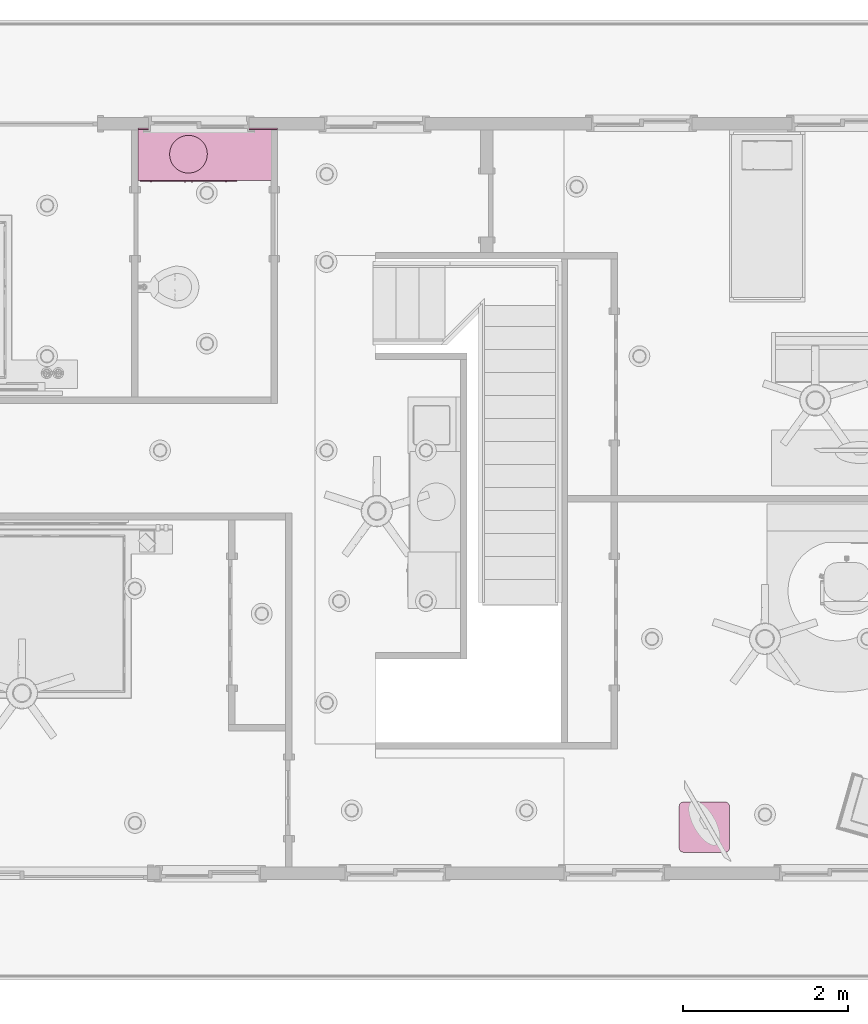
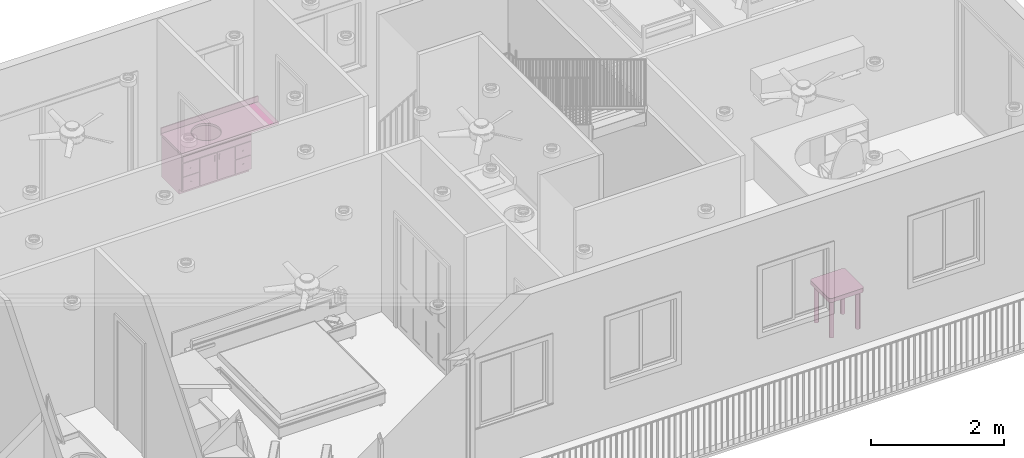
# One storey, part 24 of 28: 3 furnishings, 1 opening.
"""IFC2X3 building model written with IfcOpenShell, lengths in feet."""

from ifc_helpers import new_model, entity, si_unit, converted_unit, derived_unit, direction, frame, frame_2d, origin, place, context, subcontext, project, spatial, polyline, circle_curve, parameter, trimmed, segment, composite_curve, circle, outline, extrude, faceted_brep, source, transform, mapped, material, material_list, type_object, type_shapes, element, save


model = new_model("IFC2X3")

# Units and contexts
model_context = context("Model", 3, precision=0.0001, world=origin(), true_north=direction((6.12303176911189e-17, 1.0)))
body_context = subcontext(model_context, "Body", "Model", "MODEL_VIEW")
ifc_project = project(units=[converted_unit("LENGTHUNIT", "FOOT", entity("IfcRatioMeasure", 0.3048), si_unit("LENGTHUNIT", "METRE"), dimensions=[1, 0, 0, 0, 0, 0, 0]), converted_unit("AREAUNIT", "SQUARE FOOT", entity("IfcRatioMeasure", 0.09290304), si_unit("AREAUNIT", "SQUARE_METRE"), dimensions=[2, 0, 0, 0, 0, 0, 0]), converted_unit("VOLUMEUNIT", "CUBIC FOOT", entity("IfcRatioMeasure", 0.028316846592), si_unit("VOLUMEUNIT", "CUBIC_METRE"), dimensions=[3, 0, 0, 0, 0, 0, 0]), converted_unit("PLANEANGLEUNIT", "DEGREE", entity("IfcRatioMeasure", 0.0174532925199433), si_unit("PLANEANGLEUNIT", "RADIAN"), dimensions=[0, 0, 0, 0, 0, 0, 0]), si_unit("MASSUNIT", "GRAM", prefix="KILO"), derived_unit("MASSDENSITYUNIT", [(si_unit("MASSUNIT", "GRAM", prefix="KILO"), 1), (si_unit("LENGTHUNIT", "METRE"), -3)]), si_unit("TIMEUNIT", "SECOND"), si_unit("FREQUENCYUNIT", "HERTZ"), si_unit("THERMODYNAMICTEMPERATUREUNIT", "DEGREE_CELSIUS"), derived_unit("THERMALTRANSMITTANCEUNIT", [(si_unit("MASSUNIT", "GRAM", prefix="KILO"), 1), (si_unit("THERMODYNAMICTEMPERATUREUNIT", "KELVIN"), -1), (si_unit("TIMEUNIT", "SECOND"), -3)]), derived_unit("VOLUMETRICFLOWRATEUNIT", [(si_unit("LENGTHUNIT", "METRE"), 3), (si_unit("TIMEUNIT", "SECOND"), -1)]), si_unit("ELECTRICCURRENTUNIT", "AMPERE"), si_unit("ELECTRICVOLTAGEUNIT", "VOLT"), si_unit("POWERUNIT", "WATT"), si_unit("FORCEUNIT", "NEWTON"), si_unit("ILLUMINANCEUNIT", "LUX"), si_unit("LUMINOUSFLUXUNIT", "LUMEN"), si_unit("LUMINOUSINTENSITYUNIT", "CANDELA"), derived_unit("USERDEFINED", [(si_unit("MASSUNIT", "GRAM", prefix="KILO"), -1), (si_unit("LENGTHUNIT", "METRE"), -2), (si_unit("TIMEUNIT", "SECOND"), 3), (si_unit("LUMINOUSFLUXUNIT", "LUMEN"), 1)]), derived_unit("LINEARVELOCITYUNIT", [(si_unit("LENGTHUNIT", "METRE"), 1), (si_unit("TIMEUNIT", "SECOND"), -1)]), si_unit("PRESSUREUNIT", "PASCAL"), derived_unit("USERDEFINED", [(si_unit("LENGTHUNIT", "METRE"), -2), (si_unit("MASSUNIT", "GRAM", prefix="KILO"), 1), (si_unit("TIMEUNIT", "SECOND"), -2)])], contexts=[model_context])

# Site, building, storey
site_placement = place(None, origin())
site = spatial("IfcSite", under=ifc_project, at=site_placement, Name="表面", CompositionType="ELEMENT")
building_placement = place(site_placement, origin())
building = spatial("IfcBuilding", under=site, at=building_placement, CompositionType="ELEMENT")
storey_placement = place(building_placement, frame((0.0, 0.0, 10.0)))
storey = spatial("IfcBuildingStorey", under=building, at=storey_placement, Name="Level 2", CompositionType="ELEMENT", Elevation=9.99999999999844)

# Furnishing
ifc_material_1 = material(Name="Cabinets - Handles")
ifc_material_2 = material(Name="Cabinets")
ifc_material_list_1 = material_list([ifc_material_1, ifc_material_2])
ifc_material_list_2 = material_list([ifc_material_1, ifc_material_2])
furniture_type_1 = type_object("IfcFurnitureType", Name="48\"", material=ifc_material_list_2)
shared_shape_1 = source(origin(), body_context, "Body", "Brep", [
    faceted_brep([(0.454297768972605, -2.08333333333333, 1.87500000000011), (0.412631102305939, -2.08333333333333, 1.87500000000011), (0.412631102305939, -2.08333333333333, 1.5416666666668), (0.454297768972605, -2.08333333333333, 1.5416666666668), (0.454297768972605, -2.04166666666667, 1.87500000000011), (0.412631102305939, -2.04166666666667, 1.87500000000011), (0.412631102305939, -2.04166666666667, 1.5416666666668), (0.454297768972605, -2.04166666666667, 1.5416666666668)], [[[0, 1, 2, 3]], [[1, 0, 4, 5]], [[2, 1, 5, 6]], [[3, 2, 6, 7]], [[0, 3, 7, 4]], [[4, 7, 6, 5]]]),
    faceted_brep([(0.183464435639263, -2.04166666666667, 1.87500000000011), (0.183464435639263, -2.04166666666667, 1.54166666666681), (0.141797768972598, -2.04166666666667, 1.54166666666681), (0.141797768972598, -2.04166666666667, 1.87500000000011), (0.141797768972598, -2.08333333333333, 1.87500000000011), (0.183464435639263, -2.08333333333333, 1.87500000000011), (0.141797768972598, -2.08333333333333, 1.54166666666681), (0.183464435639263, -2.08333333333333, 1.54166666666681)], [[[0, 1, 2, 3]], [[4, 5, 0, 3]], [[6, 4, 3, 2]], [[7, 6, 2, 1]], [[5, 7, 1, 0]], [[5, 4, 6, 7]]]),
    faceted_brep([(-1.20341143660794, -2.04166666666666, 0.806246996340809), (-1.19413973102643, -2.04166666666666, 0.806246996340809), (-1.18486802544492, -2.04166666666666, 0.806246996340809), (-1.17651450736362, -2.04166666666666, 0.802224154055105), (-1.16816098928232, -2.04166666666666, 0.798201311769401), (-1.16238017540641, -2.04166666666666, 0.7909524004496), (-1.1565993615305, -2.04166666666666, 0.783703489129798), (-1.15453621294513, -2.04166666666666, 0.774664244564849), (-1.15247306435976, -2.04166666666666, 0.7656249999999), (-1.15443837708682, -2.04166666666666, 0.757014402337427), (-1.1565993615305, -2.04166666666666, 0.747546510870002), (-1.16238017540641, -2.04166666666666, 0.7402975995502), (-1.16816098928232, -2.04166666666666, 0.733048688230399), (-1.17651450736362, -2.04166666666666, 0.729025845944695), (-1.18486802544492, -2.04166666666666, 0.725003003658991), (-1.19413973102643, -2.04166666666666, 0.725003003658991), (-1.20341143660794, -2.04166666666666, 0.725003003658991), (-1.21176495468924, -2.04166666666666, 0.729025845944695), (-1.22011847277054, -2.04166666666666, 0.733048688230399), (-1.22589928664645, -2.04166666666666, 0.7402975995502), (-1.23168010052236, -2.04166666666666, 0.747546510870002), (-1.23374324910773, -2.04166666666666, 0.756585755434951), (-1.2358063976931, -2.04166666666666, 0.7656249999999), (-1.23384108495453, -2.04166666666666, 0.774235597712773), (-1.23168010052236, -2.04166666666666, 0.783703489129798), (-1.22589928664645, -2.04166666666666, 0.7909524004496), (-1.22011847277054, -2.04166666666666, 0.798201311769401), (-1.21176495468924, -2.04166666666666, 0.802224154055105), (-1.1565993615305, -2.06249999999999, 0.747546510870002), (-1.15453621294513, -2.06249999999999, 0.756585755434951), (-1.15247306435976, -2.06249999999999, 0.7656249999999), (-1.15443837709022, -2.06249999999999, 0.774235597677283), (-1.1565993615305, -2.06249999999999, 0.783703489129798), (-1.16238017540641, -2.06249999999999, 0.7909524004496), (-1.16816098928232, -2.06249999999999, 0.798201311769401), (-1.17651450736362, -2.06249999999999, 0.802224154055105), (-1.18486802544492, -2.06249999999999, 0.806246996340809), (-1.19413973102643, -2.06249999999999, 0.806246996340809), (-1.20341143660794, -2.06249999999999, 0.806246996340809), (-1.21176495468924, -2.06249999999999, 0.802224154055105), (-1.22011847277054, -2.06249999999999, 0.798201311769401), (-1.22589928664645, -2.06249999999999, 0.7909524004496), (-1.23168010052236, -2.06249999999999, 0.783703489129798), (-1.23374324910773, -2.06249999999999, 0.774664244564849), (-1.2358063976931, -2.06249999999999, 0.7656249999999), (-1.23384108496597, -2.06249999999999, 0.757014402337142), (-1.23168010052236, -2.06249999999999, 0.747546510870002), (-1.22589928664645, -2.06249999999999, 0.7402975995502), (-1.22011847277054, -2.06249999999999, 0.733048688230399), (-1.21176495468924, -2.06249999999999, 0.729025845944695), (-1.20341143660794, -2.06249999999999, 0.725003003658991), (-1.19413973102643, -2.06249999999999, 0.725003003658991), (-1.18486802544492, -2.06249999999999, 0.725003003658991), (-1.17651450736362, -2.06249999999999, 0.729025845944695), (-1.16816098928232, -2.06249999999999, 0.733048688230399), (-1.16238017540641, -2.06249999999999, 0.7402975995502)], [[[0, 1, 2, 3, 4, 5, 6, 7, 8, 9, 10, 11, 12, 13, 14, 15, 16, 17, 18, 19, 20, 21, 22, 23, 24, 25, 26, 27]], [[28, 29, 30, 31, 32, 33, 34, 35, 36, 37, 38, 39, 40, 41, 42, 43, 44, 45, 46, 47, 48, 49, 50, 51, 52, 53, 54, 55]], [[46, 45, 44, 22, 21, 20]], [[47, 46, 20, 19, 18, 48]], [[18, 17, 16, 50, 49, 48]], [[15, 14, 52, 51, 50, 16]], [[53, 52, 14, 13, 12, 54]], [[10, 9, 8, 30, 29, 28]], [[12, 11, 10, 28, 55, 54]], [[32, 31, 30, 8, 7, 6]], [[33, 32, 6, 5, 4, 34]], [[4, 3, 2, 36, 35, 34]], [[1, 0, 38, 37, 36, 2]], [[39, 38, 0, 27, 26, 40]], [[24, 23, 22, 44, 43, 42]], [[26, 25, 24, 42, 41, 40]]]),
    faceted_brep([(-1.1565993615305, -2.06249999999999, 1.60662015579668), (-1.16816098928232, -2.06249999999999, 1.62111797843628), (-1.18486802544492, -2.06249999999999, 1.62916366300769), (-1.20341143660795, -2.06249999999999, 1.62916366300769), (-1.22011847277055, -2.06249999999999, 1.62111797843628), (-1.23168010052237, -2.06249999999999, 1.60662015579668), (-1.2358063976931, -2.06249999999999, 1.58854166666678), (-1.23168010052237, -2.06249999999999, 1.57046317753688), (-1.22011847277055, -2.06249999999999, 1.55596535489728), (-1.20341143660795, -2.06249999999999, 1.54791967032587), (-1.18486802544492, -2.06249999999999, 1.54791967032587), (-1.16816098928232, -2.06249999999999, 1.55596535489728), (-1.1565993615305, -2.06249999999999, 1.57046317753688), (-1.15247306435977, -2.06249999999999, 1.58854166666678), (-1.18486802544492, -2.04166666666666, 1.62916366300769), (-1.16816098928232, -2.04166666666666, 1.62111797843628), (-1.1565993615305, -2.04166666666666, 1.60662015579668), (-1.15247306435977, -2.04166666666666, 1.58854166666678), (-1.1565993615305, -2.04166666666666, 1.57046317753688), (-1.16816098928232, -2.04166666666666, 1.55596535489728), (-1.18486802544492, -2.04166666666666, 1.54791967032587), (-1.20341143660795, -2.04166666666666, 1.54791967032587), (-1.22011847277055, -2.04166666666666, 1.55596535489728), (-1.23168010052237, -2.04166666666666, 1.57046317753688), (-1.2358063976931, -2.04166666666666, 1.58854166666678), (-1.23168010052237, -2.04166666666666, 1.60662015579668), (-1.22011847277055, -2.04166666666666, 1.62111797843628), (-1.20341143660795, -2.04166666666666, 1.62916366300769)], [[[0, 1, 2, 3, 4, 5, 6, 7, 8, 9, 10, 11, 12, 13]], [[14, 15, 16, 17, 18, 19, 20, 21, 22, 23, 24, 25, 26, 27]], [[7, 6, 24, 23]], [[8, 7, 23, 22]], [[9, 8, 22, 21]], [[21, 20, 10, 9]], [[11, 10, 20, 19]], [[19, 18, 12, 11]], [[17, 13, 12, 18]], [[0, 13, 17, 16]], [[16, 15, 1, 0]], [[14, 2, 1, 15]], [[14, 27, 3, 2]], [[4, 3, 27, 26]], [[26, 25, 5, 4]], [[24, 6, 5, 25]]]),
    faceted_brep([(1.79950697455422, -2.04166666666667, 0.806246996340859), (1.81621401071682, -2.04166666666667, 0.798201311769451), (1.82777563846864, -2.04166666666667, 0.783703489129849), (1.83190193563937, -2.04166666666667, 0.765624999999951), (1.82777563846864, -2.04166666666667, 0.747546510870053), (1.81621401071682, -2.04166666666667, 0.73304868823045), (1.79950697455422, -2.04166666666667, 0.725003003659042), (1.78096356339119, -2.04166666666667, 0.725003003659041), (1.76425652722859, -2.04166666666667, 0.733048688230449), (1.75269489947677, -2.04166666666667, 0.747546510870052), (1.74856860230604, -2.04166666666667, 0.765624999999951), (1.75269489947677, -2.04166666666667, 0.783703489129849), (1.76425652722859, -2.04166666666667, 0.798201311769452), (1.78096356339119, -2.04166666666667, 0.80624699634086), (1.79950697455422, -2.0625, 0.725003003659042), (1.81621401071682, -2.0625, 0.73304868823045), (1.82777563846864, -2.0625, 0.747546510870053), (1.83190193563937, -2.0625, 0.76562499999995), (1.82777563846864, -2.0625, 0.783703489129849), (1.81621401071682, -2.0625, 0.798201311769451), (1.79950697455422, -2.0625, 0.806246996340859), (1.78096356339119, -2.0625, 0.80624699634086), (1.76425652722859, -2.0625, 0.798201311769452), (1.75269489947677, -2.0625, 0.783703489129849), (1.74856860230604, -2.0625, 0.76562499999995), (1.75269489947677, -2.0625, 0.747546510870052), (1.76425652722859, -2.0625, 0.733048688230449), (1.78096356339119, -2.0625, 0.725003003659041)], [[[0, 1, 2, 3, 4, 5, 6, 7, 8, 9, 10, 11, 12, 13]], [[14, 15, 16, 17, 18, 19, 20, 21, 22, 23, 24, 25, 26, 27]], [[25, 24, 10, 9]], [[26, 25, 9, 8]], [[27, 26, 8, 7]], [[7, 6, 14, 27]], [[15, 14, 6, 5]], [[5, 4, 16, 15]], [[3, 17, 16, 4]], [[18, 17, 3, 2]], [[2, 1, 19, 18]], [[0, 20, 19, 1]], [[0, 13, 21, 20]], [[22, 21, 13, 12]], [[12, 11, 23, 22]], [[10, 24, 23, 11]]]),
    faceted_brep([(1.79950697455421, -2.0625, 1.54791967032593), (1.81621401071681, -2.0625, 1.55596535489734), (1.82777563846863, -2.0625, 1.57046317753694), (1.83190193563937, -2.0625, 1.58854166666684), (1.82777563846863, -2.0625, 1.60662015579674), (1.81621401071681, -2.0625, 1.62111797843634), (1.79950697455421, -2.0625, 1.62916366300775), (1.78096356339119, -2.0625, 1.62916366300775), (1.76425652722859, -2.0625, 1.62111797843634), (1.75269489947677, -2.0625, 1.60662015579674), (1.74856860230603, -2.0625, 1.58854166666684), (1.75269489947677, -2.0625, 1.57046317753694), (1.76425652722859, -2.0625, 1.55596535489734), (1.78096356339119, -2.0625, 1.54791967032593), (1.81621401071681, -2.04166666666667, 1.62111797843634), (1.82777563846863, -2.04166666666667, 1.60662015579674), (1.83190193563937, -2.04166666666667, 1.58854166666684), (1.82777563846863, -2.04166666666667, 1.57046317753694), (1.81621401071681, -2.04166666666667, 1.55596535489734), (1.79950697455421, -2.04166666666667, 1.54791967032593), (1.78096356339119, -2.04166666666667, 1.54791967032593), (1.76425652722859, -2.04166666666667, 1.55596535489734), (1.75269489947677, -2.04166666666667, 1.57046317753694), (1.74856860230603, -2.04166666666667, 1.58854166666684), (1.75269489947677, -2.04166666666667, 1.60662015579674), (1.76425652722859, -2.04166666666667, 1.62111797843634), (1.78096356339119, -2.04166666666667, 1.62916366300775), (1.79950697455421, -2.04166666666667, 1.62916366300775)], [[[0, 1, 2, 3, 4, 5, 6, 7, 8, 9, 10, 11, 12, 13]], [[14, 15, 16, 17, 18, 19, 20, 21, 22, 23, 24, 25, 26, 27]], [[23, 22, 11, 10]], [[21, 20, 13, 12]], [[22, 21, 12, 11]], [[20, 19, 0, 13]], [[19, 18, 1, 0]], [[17, 16, 3, 2]], [[18, 17, 2, 1]], [[16, 15, 4, 3]], [[14, 27, 6, 5]], [[15, 14, 5, 4]], [[27, 26, 7, 6]], [[26, 25, 8, 7]], [[24, 23, 10, 9]], [[25, 24, 9, 8]]]),
    faceted_brep([(2.23554776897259, -0.0624999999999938, 0.354166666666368), (-1.63945223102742, -0.0624999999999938, 0.354166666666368), (-1.63945223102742, -1.9375, 0.354166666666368), (2.23554776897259, -1.9375, 0.354166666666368), (2.23554776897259, -0.0624999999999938, 0.291666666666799), (2.23554776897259, -1.9375, 0.291666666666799), (-1.63945223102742, -1.9375, 0.291666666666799), (-1.63945223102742, -0.0624999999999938, 0.291666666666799)], [[[0, 1, 2, 3]], [[4, 5, 6, 7]], [[1, 0, 4, 7]], [[2, 1, 7, 6]], [[3, 2, 6, 5]], [[0, 3, 5, 4]]]),
    faceted_brep([(2.23554776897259, -1.9375, 2.45833333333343), (2.23554776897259, -1.9375, 0.291666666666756), (-1.63945223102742, -1.9375, 0.291666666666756), (-1.63945223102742, -1.9375, 2.45833333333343), (2.29804776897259, -2.0, 2.45833333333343), (-1.70195223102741, -2.0, 2.45833333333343), (2.29804776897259, -2.0, 0.291666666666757), (-1.70195223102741, -2.0, 0.291666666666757), (-1.63945223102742, -0.0624999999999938, 0.291666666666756), (-1.63945223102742, -0.0624999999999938, 2.45833333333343), (-1.70195223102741, 0.0, 2.45833333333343), (-1.70195223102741, 0.0, 0.291666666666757), (2.23554776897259, -0.0624999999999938, 0.291666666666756), (2.23554776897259, -0.0624999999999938, 2.45833333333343), (2.29804776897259, 0.0, 2.45833333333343), (2.29804776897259, 0.0, 0.291666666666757)], [[[0, 1, 2, 3]], [[4, 0, 3, 5]], [[6, 4, 5, 7]], [[1, 6, 7, 2]], [[3, 2, 8, 9]], [[5, 3, 9, 10]], [[7, 5, 10, 11]], [[2, 7, 11, 8]], [[9, 8, 12, 13]], [[10, 9, 13, 14]], [[11, 10, 14, 15]], [[8, 11, 15, 12]], [[13, 12, 1, 0]], [[14, 13, 0, 4]], [[15, 14, 4, 6]], [[12, 15, 6, 1]]]),
    faceted_brep([(2.29804776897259, 0.0, 0.291666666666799), (-1.70195223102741, 0.0, 0.291666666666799), (-1.70195223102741, -1.75, 0.291666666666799), (2.29804776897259, -1.75, 0.291666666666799), (2.29804776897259, 0.0, 0.0), (2.29804776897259, -1.75, 0.0), (-1.70195223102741, -1.75, 0.0), (-1.70195223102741, 0.0, 0.0)], [[[0, 1, 2, 3]], [[4, 5, 6, 7]], [[1, 0, 4, 7]], [[2, 1, 7, 6]], [[3, 2, 6, 5]], [[0, 3, 5, 4]]]),
    faceted_brep([(-1.63945223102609, -2.04166666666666, 2.39583333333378), (-1.63945223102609, -2.04166666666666, 2.06250000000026), (2.23554776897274, -2.04166666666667, 2.06250000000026), (2.23554776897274, -2.04166666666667, 2.39583333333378), (-1.63945223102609, -2.0, 2.39583333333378), (-1.63945223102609, -2.0, 2.06250000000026), (2.23554776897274, -2.0, 2.06250000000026), (2.23554776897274, -2.0, 2.39583333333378)], [[[0, 1, 2, 3]], [[1, 0, 4, 5]], [[2, 1, 5, 6]], [[3, 2, 6, 7]], [[0, 3, 7, 4]], [[4, 7, 6, 5]]]),
    faceted_brep([(-1.63945223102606, -2.0, 0.354166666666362), (-1.63945223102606, -2.0, 1.16666666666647), (-0.748827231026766, -2.0, 1.16666666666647), (-0.748827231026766, -2.0, 0.354166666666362), (-0.748827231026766, -2.04166666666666, 0.354166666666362), (-1.63945223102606, -2.04166666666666, 0.354166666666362), (-0.748827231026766, -2.04166666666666, 1.16666666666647), (-1.63945223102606, -2.04166666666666, 1.16666666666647)], [[[0, 1, 2, 3]], [[4, 5, 0, 3]], [[6, 4, 3, 2]], [[7, 6, 2, 1]], [[5, 7, 1, 0]], [[5, 4, 6, 7]]]),
    faceted_brep([(1.34492276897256, -2.04166666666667, 1.1875000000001), (1.34492276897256, -2.04166666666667, 2.0), (1.34492276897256, -2.0, 2.0), (1.34492276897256, -2.0, 1.1875000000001), (2.23554776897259, -2.04166666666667, 1.1875000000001), (2.23554776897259, -2.0, 1.1875000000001), (2.23554776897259, -2.04166666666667, 2.0), (2.23554776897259, -2.0, 2.0)], [[[0, 1, 2, 3]], [[4, 0, 3, 5]], [[6, 4, 5, 7]], [[1, 6, 7, 2]], [[2, 7, 5, 3]], [[1, 0, 4, 6]]]),
    faceted_brep([(2.23554776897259, -2.04166666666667, 0.354166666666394), (1.34492276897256, -2.04166666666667, 0.354166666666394), (1.34492276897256, -2.0, 0.354166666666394), (2.23554776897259, -2.0, 0.354166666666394), (2.23554776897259, -2.04166666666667, 1.16666666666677), (2.23554776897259, -2.0, 1.16666666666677), (1.34492276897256, -2.04166666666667, 1.16666666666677), (1.34492276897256, -2.0, 1.16666666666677)], [[[0, 1, 2, 3]], [[4, 0, 3, 5]], [[6, 4, 5, 7]], [[1, 6, 7, 2]], [[2, 7, 5, 3]], [[1, 0, 4, 6]]]),
    faceted_brep([(-1.63945223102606, -2.04166666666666, 1.1874999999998), (-1.63945223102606, -2.04166666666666, 2.0), (-1.63945223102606, -2.0, 2.0), (-1.63945223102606, -2.0, 1.1874999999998), (-0.748827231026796, -2.04166666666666, 1.1874999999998), (-0.748827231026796, -2.0, 1.1874999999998), (-0.748827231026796, -2.04166666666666, 2.0), (-0.748827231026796, -2.0, 2.0)], [[[0, 1, 2, 3]], [[4, 0, 3, 5]], [[6, 4, 5, 7]], [[1, 6, 7, 2]], [[2, 7, 5, 3]], [[1, 0, 4, 6]]]),
    faceted_brep([(-0.686327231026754, -2.04166666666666, 2.0), (0.266797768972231, -2.04166666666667, 2.0), (0.266797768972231, -2.0, 2.0), (-0.686327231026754, -2.0, 2.0), (-0.686327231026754, -2.04166666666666, 0.354166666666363), (-0.686327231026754, -2.0, 0.354166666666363), (0.266797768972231, -2.04166666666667, 0.354166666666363), (0.266797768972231, -2.0, 0.354166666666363)], [[[0, 1, 2, 3]], [[4, 0, 3, 5]], [[6, 4, 5, 7]], [[1, 6, 7, 2]], [[2, 7, 5, 3]], [[1, 0, 4, 6]]]),
    faceted_brep([(0.329297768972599, -2.04166666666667, 2.0), (1.28242276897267, -2.04166666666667, 2.0), (1.28242276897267, -2.0, 2.0), (0.329297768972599, -2.0, 2.0), (0.329297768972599, -2.04166666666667, 0.354166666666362), (0.329297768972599, -2.0, 0.354166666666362), (1.28242276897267, -2.04166666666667, 0.354166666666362), (1.28242276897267, -2.0, 0.354166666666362)], [[[0, 1, 2, 3]], [[4, 0, 3, 5]], [[6, 4, 5, 7]], [[1, 6, 7, 2]], [[2, 7, 5, 3]], [[1, 0, 4, 6]]]),
])
type_shapes(furniture_type_1, [shared_shape_1])
furnishing_1_placement = place(storey_placement, frame((0.463914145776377, 16.4323936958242, 0.343749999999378)))
element("IfcFurnishingElement", 1, at=furnishing_1_placement, inside=storey, type_object=furniture_type_1, material=ifc_material_list_1, Name="Vanity Cabinet-Double Door & 4 Drawer:48\"", ObjectType="48\"", context=body_context, shape_type="MappedRepresentation", body=[
    mapped(shared_shape_1, transform((0.0, 0.0, 0.0), scale=1.0)),
])

# Furnishing, opening
ifc_material_3 = material(Name="Counter Top")
furniture_type_2 = type_object("IfcFurnitureType", Name="24\" Depth", material=ifc_material_3)
shared_shape_2 = source(origin(), body_context, "Body", "SweptSolid", [
    extrude(outline(polyline([(-0.194444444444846, -0.715277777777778), (0.26388888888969, -0.715277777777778), (0.26388888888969, -0.652777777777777), (-0.0694444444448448, -0.652777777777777), (-0.0694444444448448, 1.36805555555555), (-0.194444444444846, 1.36805555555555), (-0.194444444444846, -0.715277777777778)])), frame((-4.35519125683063, -0.715277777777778, 2.65277777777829), z_axis=(1.0, 0.0, 0.0), x_axis=(0.0, 0.0, 1.0)), (0.0, 0.0, 1.0), 5.54687499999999),
])
type_shapes(furniture_type_2, [shared_shape_2])
furnishing_2_placement = place(storey_placement, frame((3.11715317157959, 16.5157270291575, 0.343749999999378)))
furnishing_2 = element("IfcFurnishingElement", 2, at=furnishing_2_placement, inside=storey, type_object=furniture_type_2, material=ifc_material_3, Name="Vanity Counter Top w Round Sink Hole:24\" Depth", ObjectType="24\" Depth", context=body_context, shape_type="MappedRepresentation", body=[
    mapped(shared_shape_2, transform((0.0, 0.0, 0.0), scale=1.0)),
])
opening_placement = place(storey_placement, frame((3.11715317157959, 16.5157270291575, 10.3437499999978)))
element("IfcOpeningElement", 3, at=opening_placement, cuts=furnishing_2, Name="Vanity Counter Top w Round Sink Hole:24\" Depth:1", ObjectType="Opening", context=body_context, shape_type="SweptSolid", body=[
    extrude(circle(Radius=0.749999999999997, at=frame_2d((0.0, 1.11022302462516e-15), x_axis=(1.0, 0.0))), frame((-2.35519125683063, -1.04166666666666, -7.41666666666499), z_axis=(0.0, 0.0, -1.0), x_axis=(1.0, 0.0, 0.0)), (0.0, 0.0, 1.0), 0.125000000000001),
])

# Furnishing
ifc_material_4 = material(Name="Laminate - Ivory, Matte")
ifc_material_5 = material(Name="Wood - Birch")
ifc_material_list_3 = material_list([ifc_material_4, ifc_material_5])
ifc_material_list_4 = material_list([ifc_material_4, ifc_material_5])
furniture_type_3 = type_object("IfcFurnitureType", Name="24\" x 24\"", material=ifc_material_list_4)
shared_shape_3 = source(origin(), body_context, "Body", "SweptSolid", [
    extrude(outline(composite_curve([segment(trimmed(circle_curve(frame_2d((0.83333333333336, -0.833333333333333), x_axis=(1.0, 0.0)), 0.166666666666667), [parameter(270.0)], [parameter(0.0)], True, "PARAMETER"), True, "CONTINUOUS"), segment(polyline([(1.0, -0.833333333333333), (1.0, 0.833333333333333)]), True, "CONTINUOUS"), segment(trimmed(circle_curve(frame_2d((0.833333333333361, 0.833333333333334), x_axis=(1.0, 0.0)), 0.166666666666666), [parameter(360.0)], [parameter(89.9999999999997)], True, "PARAMETER"), True, "CONTINUOUS"), segment(polyline([(0.833333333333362, 1.0), (-0.83333333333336, 1.0)]), True, "CONTINUOUS"), segment(trimmed(circle_curve(frame_2d((-0.83333333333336, 0.833333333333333), x_axis=(1.0, 0.0)), 0.166666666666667), [parameter(90.0000000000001)], [parameter(180.0)], True, "PARAMETER"), True, "CONTINUOUS"), segment(polyline([(-1.0, 0.833333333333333), (-1.0, -0.833333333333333)]), True, "CONTINUOUS"), segment(trimmed(circle_curve(frame_2d((-0.833333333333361, -0.833333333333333), x_axis=(1.0, 0.0)), 0.166666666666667), [parameter(180.0)], [parameter(270.0)], True, "PARAMETER"), True, "CONTINUOUS"), segment(polyline([(-0.833333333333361, -1.0), (0.83333333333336, -1.0)]), True, "CONTINUOUS")], self_intersect=False)), frame((1.01224944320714, 0.5, 2.25)), (0.0, 0.0, 1.0), 0.25),
    extrude(circle(Radius=0.125, at=frame_2d((0.0, -1.11022302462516e-16), x_axis=(1.0, 0.0))), frame((1.76224944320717, -0.25, 0.0)), (0.0, 0.0, 1.0), 2.25),
    extrude(circle(Radius=0.125000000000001, at=frame_2d((0.0, -6.66133814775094e-16), x_axis=(1.0, 0.0))), frame((1.76224944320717, 1.25, 0.0)), (0.0, 0.0, 1.0), 2.25),
    extrude(circle(Radius=0.125, at=frame_2d((0.0, -6.66133814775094e-16), x_axis=(1.0, 0.0))), frame((0.26224944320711, 1.25, 0.0)), (0.0, 0.0, 1.0), 2.25),
    extrude(circle(Radius=0.125, at=frame_2d((0.0, -1.66533453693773e-16), x_axis=(1.0, 0.0))), frame((0.26224944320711, -0.25, 0.0)), (0.0, 0.0, 1.0), 2.25),
])
type_shapes(furniture_type_3, [shared_shape_3])
furnishing_3_placement = place(storey_placement, frame((20.2861708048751, -11.8176063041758, 0.343749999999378)))
element("IfcFurnishingElement", 4, at=furnishing_3_placement, inside=storey, type_object=furniture_type_3, material=ifc_material_list_3, Name="Table-End:24\" x 24\"", ObjectType="24\" x 24\"", context=body_context, shape_type="MappedRepresentation", body=[
    mapped(shared_shape_3, transform((0.0, 0.0, 0.0), scale=1.0)),
])

save(model, "model.ifc")
